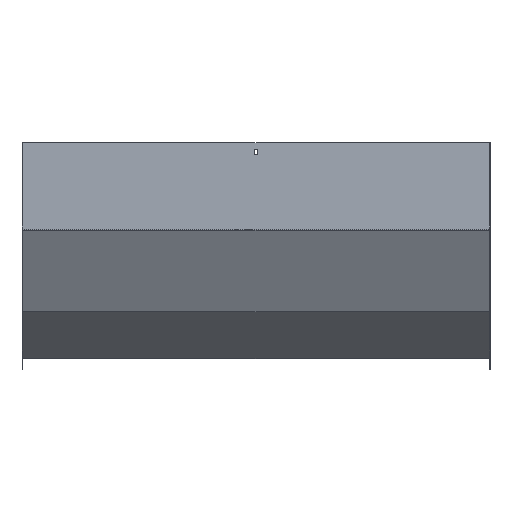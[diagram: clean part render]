
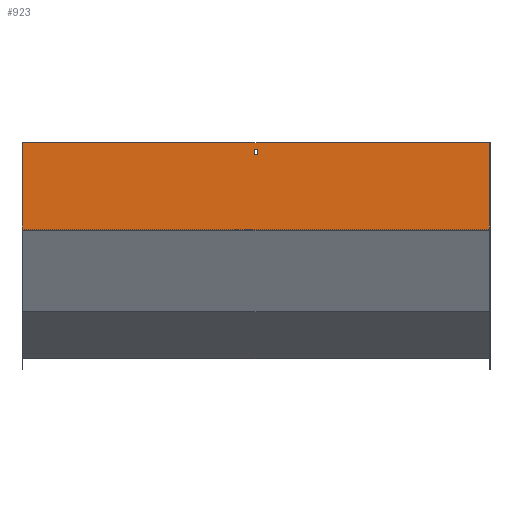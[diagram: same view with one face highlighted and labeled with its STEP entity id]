
A CAD part, front view. The second image highlights one B-rep face of the part: STEP entity #923.
In plain terms, the highlighted planar face has unit normal (0, -1, 0).
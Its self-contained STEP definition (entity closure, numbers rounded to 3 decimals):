
#4 = VERTEX_POINT ( 'NONE', #471 ) ;
#27 = EDGE_CURVE ( 'NONE', #38, #551, #30, .T. ) ;
#28 = ORIENTED_EDGE ( 'NONE', *, *, #952, .F. ) ;
#30 = LINE ( 'NONE', #108, #533 ) ;
#36 = VECTOR ( 'NONE', #450, 1000. ) ;
#38 = VERTEX_POINT ( 'NONE', #718 ) ;
#63 = CARTESIAN_POINT ( 'NONE',  ( 400., -1.5, 0. ) ) ;
#71 = VECTOR ( 'NONE', #900, 1000. ) ;
#75 = VECTOR ( 'NONE', #78, 1000. ) ;
#78 = DIRECTION ( 'NONE',  ( 0., 0., 1. ) ) ;
#105 = ORIENTED_EDGE ( 'NONE', *, *, #27, .F. ) ;
#108 = CARTESIAN_POINT ( 'NONE',  ( -3.25, -1.5, 0. ) ) ;
#118 = EDGE_LOOP ( 'NONE', ( #728, #202, #28, #912 ) ) ;
#124 = VERTEX_POINT ( 'NONE', #185 ) ;
#125 = VERTEX_POINT ( 'NONE', #484 ) ;
#137 = ORIENTED_EDGE ( 'NONE', *, *, #180, .F. ) ;
#180 = EDGE_CURVE ( 'NONE', #124, #38, #734, .T. ) ;
#185 = CARTESIAN_POINT ( 'NONE',  ( 3.25, -1.5, -12. ) ) ;
#187 = AXIS2_PLACEMENT_3D ( 'NONE', #516, #823, #673 ) ;
#202 = ORIENTED_EDGE ( 'NONE', *, *, #384, .F. ) ;
#205 = LINE ( 'NONE', #353, #36 ) ;
#215 = PLANE ( 'NONE',  #187 ) ;
#236 = VECTOR ( 'NONE', #694, 1000. ) ;
#242 = EDGE_CURVE ( 'NONE', #551, #816, #205, .T. ) ;
#321 = ORIENTED_EDGE ( 'NONE', *, *, #242, .F. ) ;
#341 = EDGE_CURVE ( 'NONE', #4, #689, #615, .T. ) ;
#345 = DIRECTION ( 'NONE',  ( 0., 0., -1. ) ) ;
#353 = CARTESIAN_POINT ( 'NONE',  ( 401.5, -1.5, -21. ) ) ;
#377 = DIRECTION ( 'NONE',  ( -1., 0., 0. ) ) ;
#384 = EDGE_CURVE ( 'NONE', #125, #689, #458, .T. ) ;
#405 = CARTESIAN_POINT ( 'NONE',  ( -3.25, -1.5, -21. ) ) ;
#438 = LINE ( 'NONE', #591, #945 ) ;
#450 = DIRECTION ( 'NONE',  ( 1., 0., 0. ) ) ;
#455 = EDGE_LOOP ( 'NONE', ( #951, #321, #105, #137 ) ) ;
#458 = LINE ( 'NONE', #839, #640 ) ;
#471 = CARTESIAN_POINT ( 'NONE',  ( -400., -1.5, 0. ) ) ;
#476 = VERTEX_POINT ( 'NONE', #63 ) ;
#484 = CARTESIAN_POINT ( 'NONE',  ( 400., -1.5, -150.102 ) ) ;
#516 = CARTESIAN_POINT ( 'NONE',  ( 401.5, -1.5, 0. ) ) ;
#533 = VECTOR ( 'NONE', #345, 1000. ) ;
#551 = VERTEX_POINT ( 'NONE', #405 ) ;
#552 = LINE ( 'NONE', #776, #236 ) ;
#591 = CARTESIAN_POINT ( 'NONE',  ( 401.5, -1.5, 0. ) ) ;
#615 = LINE ( 'NONE', #837, #944 ) ;
#640 = VECTOR ( 'NONE', #377, 1000. ) ;
#671 = CARTESIAN_POINT ( 'NONE',  ( 401.5, -1.5, -12. ) ) ;
#673 = DIRECTION ( 'NONE',  ( 0., 0., 1. ) ) ;
#684 = LINE ( 'NONE', #762, #75 ) ;
#689 = VERTEX_POINT ( 'NONE', #963 ) ;
#694 = DIRECTION ( 'NONE',  ( 0., 0., -1. ) ) ;
#718 = CARTESIAN_POINT ( 'NONE',  ( -3.25, -1.5, -12. ) ) ;
#728 = ORIENTED_EDGE ( 'NONE', *, *, #341, .T. ) ;
#734 = LINE ( 'NONE', #671, #71 ) ;
#752 = DIRECTION ( 'NONE',  ( -1., 0., 0. ) ) ;
#762 = CARTESIAN_POINT ( 'NONE',  ( 3.25, -1.5, 0. ) ) ;
#776 = CARTESIAN_POINT ( 'NONE',  ( 400., -1.5, 0. ) ) ;
#777 = EDGE_CURVE ( 'NONE', #476, #4, #438, .T. ) ;
#816 = VERTEX_POINT ( 'NONE', #828 ) ;
#823 = DIRECTION ( 'NONE',  ( 0., 1., 0. ) ) ;
#828 = CARTESIAN_POINT ( 'NONE',  ( 3.25, -1.5, -21. ) ) ;
#837 = CARTESIAN_POINT ( 'NONE',  ( -400., -1.5, 0. ) ) ;
#839 = CARTESIAN_POINT ( 'NONE',  ( 401.5, -1.5, -150.102 ) ) ;
#841 = DIRECTION ( 'NONE',  ( 0., 0., -1. ) ) ;
#885 = EDGE_CURVE ( 'NONE', #816, #124, #684, .T. ) ;
#896 = FACE_OUTER_BOUND ( 'NONE', #118, .T. ) ;
#900 = DIRECTION ( 'NONE',  ( -1., 0., 0. ) ) ;
#905 = FACE_BOUND ( 'NONE', #455, .T. ) ;
#912 = ORIENTED_EDGE ( 'NONE', *, *, #777, .T. ) ;
#923 = ADVANCED_FACE ( 'NONE', ( #896, #905 ), #215, .F. ) ;
#944 = VECTOR ( 'NONE', #841, 1000. ) ;
#945 = VECTOR ( 'NONE', #752, 1000. ) ;
#951 = ORIENTED_EDGE ( 'NONE', *, *, #885, .F. ) ;
#952 = EDGE_CURVE ( 'NONE', #476, #125, #552, .T. ) ;
#963 = CARTESIAN_POINT ( 'NONE',  ( -400., -1.5, -150.102 ) ) ;
